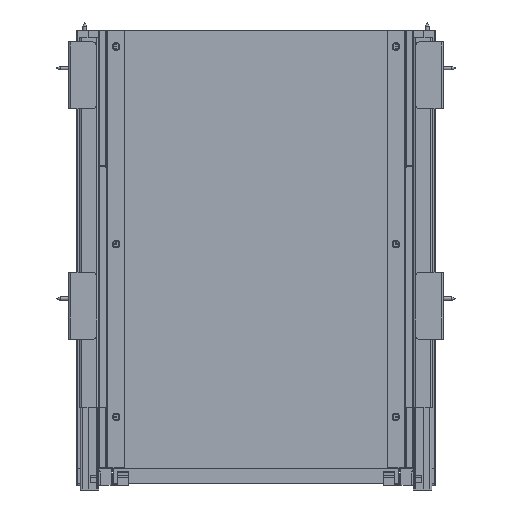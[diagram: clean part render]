
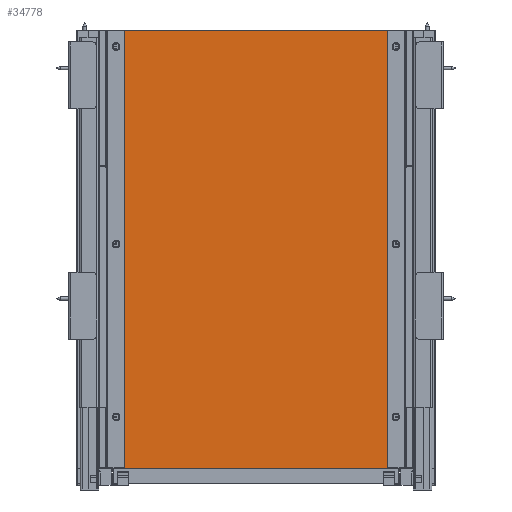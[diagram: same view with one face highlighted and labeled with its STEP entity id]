
A CAD part, front view. The second image highlights one B-rep face of the part: STEP entity #34778.
In plain terms, the highlighted planar face has unit normal (0, -1, 0).
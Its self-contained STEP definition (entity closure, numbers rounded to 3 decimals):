
#3368=FACE_OUTER_BOUND('',#5490,.T.);
#5490=EDGE_LOOP('',(#29763,#29764,#29765,#29766));
#8962=LINE('',#56832,#12876);
#8963=LINE('',#56835,#12877);
#8964=LINE('',#56837,#12878);
#8965=LINE('',#56838,#12879);
#12876=VECTOR('',#44694,10.);
#12877=VECTOR('',#44697,10.);
#12878=VECTOR('',#44698,10.);
#12879=VECTOR('',#44699,10.);
#16405=VERTEX_POINT('',#56825);
#16408=VERTEX_POINT('',#56830);
#16409=VERTEX_POINT('',#56834);
#16410=VERTEX_POINT('',#56836);
#20974=EDGE_CURVE('',#16405,#16408,#8962,.T.);
#20975=EDGE_CURVE('',#16409,#16405,#8963,.T.);
#20976=EDGE_CURVE('',#16410,#16408,#8964,.T.);
#20977=EDGE_CURVE('',#16409,#16410,#8965,.T.);
#29763=ORIENTED_EDGE('',*,*,#20975,.T.);
#29764=ORIENTED_EDGE('',*,*,#20974,.T.);
#29765=ORIENTED_EDGE('',*,*,#20976,.F.);
#29766=ORIENTED_EDGE('',*,*,#20977,.F.);
#32976=PLANE('',#37266);
#34778=ADVANCED_FACE('',(#3368),#32976,.T.);
#37266=AXIS2_PLACEMENT_3D('',#56833,#44695,#44696);
#44694=DIRECTION('',(0.,0.,-1.));
#44695=DIRECTION('center_axis',(0.,-1.,0.));
#44696=DIRECTION('ref_axis',(-1.,0.,0.));
#44697=DIRECTION('',(-1.,0.,0.));
#44698=DIRECTION('',(-1.,0.,0.));
#44699=DIRECTION('',(0.,0.,-1.));
#56825=CARTESIAN_POINT('',(-144.5,22.,11.5));
#56830=CARTESIAN_POINT('',(-144.5,22.,-414.5));
#56832=CARTESIAN_POINT('',(-144.5,22.,11.5));
#56833=CARTESIAN_POINT('Origin',(144.5,22.,11.5));
#56834=CARTESIAN_POINT('',(144.5,22.,11.5));
#56835=CARTESIAN_POINT('',(144.5,22.,11.5));
#56836=CARTESIAN_POINT('',(144.5,22.,-414.5));
#56837=CARTESIAN_POINT('',(144.5,22.,-414.5));
#56838=CARTESIAN_POINT('',(144.5,22.,11.5));
